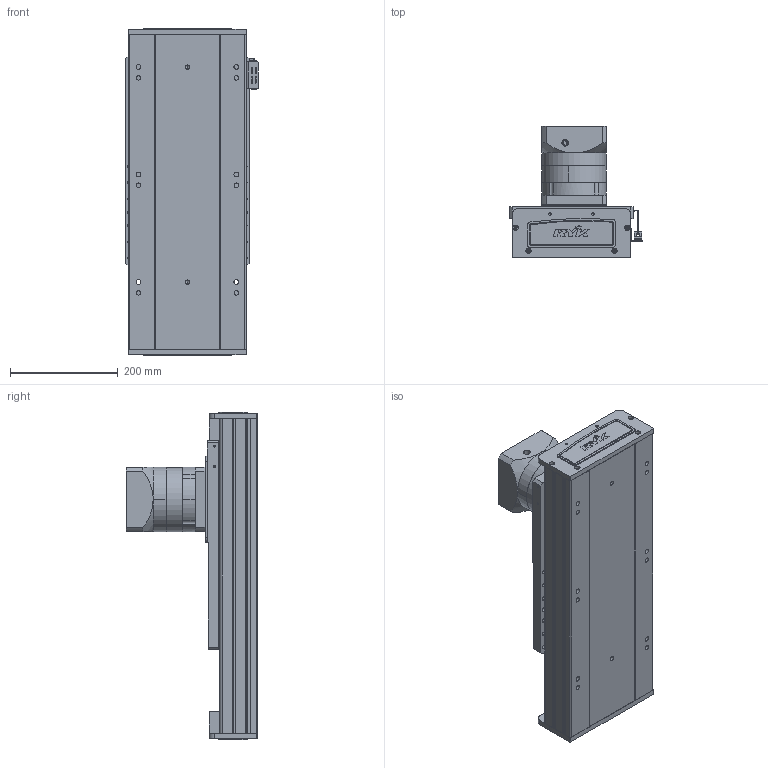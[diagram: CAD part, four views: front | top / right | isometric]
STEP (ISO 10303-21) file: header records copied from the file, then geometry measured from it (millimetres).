
FILE_DESCRIPTION (( 'STEP AP203' ), '1' );
FILE_NAME ('RY220-C-300-UK.SLDASM_0100.step', '2022-08-01T05:58:24', ( '' ), ( '' ), 'SwSTEP 2.0', 'SolidWorks 2016', '' );
FILE_SCHEMA (( 'CONFIG_CONTROL_DESIGN' ));
Length unit declared in the file: millimetre
Products named in the file (10): 覜茼ん674; RY220喘沭綴裔啣; RY140直线电机感应器674光电安装座; RY220喘沭俋离覜茼え; RY220-C-300-UK.SLDASM_0100; 滅袉蝶輸ㄗG412隅秶ㄘ; PF115L1-S2-22-58-110-145-M8; RY220菁釱MK-300_0100; RY220喘沭賑輸; RY220-齿条模组电机安装板
Assembly tree (12 placements, depth 2):
  RY220-C-300-UK.SLDASM_0100
    RY220菁釱MK-300_0100
    RY220喘沭賑輸
    RY220-齿条模组电机安装板
    PF115L1-S2-22-58-110-145-M8
    RY220喘沭綴裔啣  x2
    滅袉蝶輸ㄗG412隅秶ㄘ  x2
    RY140直线电机感应器674光电安装座
    覜茼ん674  x2
    RY220喘沭俋离覜茼え
Bounding box: 247 x 244.5 x 609 mm (x, y, z)
Volume: 7554100.5 mm3; surface area: 1369935.9 mm2
Topology: 18 solids, 26 shells, 1752 faces, 4669 edges, 3019 vertices
Faces by surface type: cylinder 753, plane 751, bspline 162, cone 86
Entity records: 54997 total; most frequent: CARTESIAN_POINT 15323, ORIENTED_EDGE 8066, DIRECTION 7991, EDGE_CURVE 4033, AXIS2_PLACEMENT_3D 2995, VERTEX_POINT 2645, VECTOR 2001, LINE 2001
